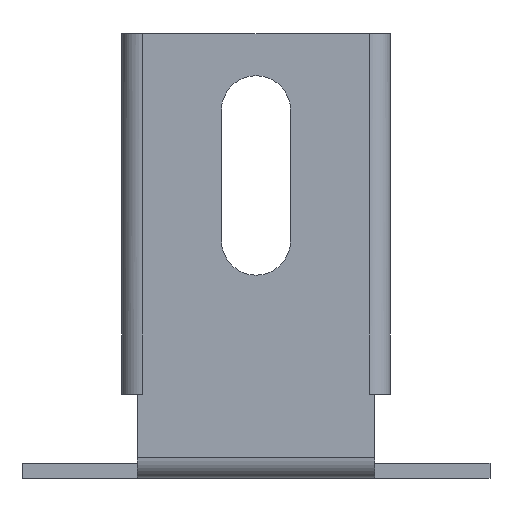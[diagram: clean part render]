
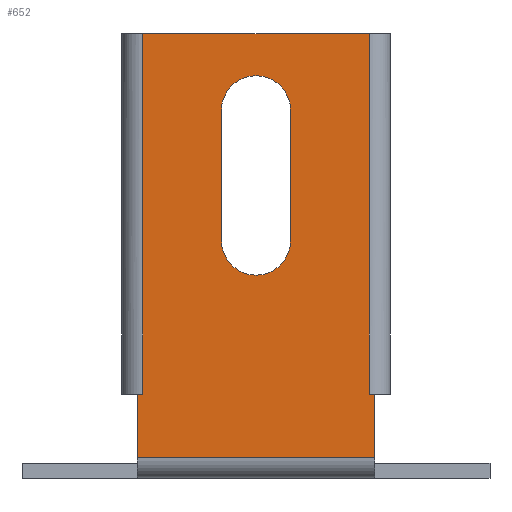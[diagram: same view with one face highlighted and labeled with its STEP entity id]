
A CAD part, front view. The second image highlights one B-rep face of the part: STEP entity #652.
In plain terms, the highlighted planar face has unit normal (0, -1, 0).
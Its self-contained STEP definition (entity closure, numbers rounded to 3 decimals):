
#32 = VECTOR ( 'NONE', #136, 1000. ) ;
#42 = DIRECTION ( 'NONE',  ( 0., 0., 1. ) ) ;
#48 = ORIENTED_EDGE ( 'NONE', *, *, #792, .T. ) ;
#50 = CARTESIAN_POINT ( 'NONE',  ( 0., -2., -47. ) ) ;
#52 = LINE ( 'NONE', #611, #1581 ) ;
#59 = CARTESIAN_POINT ( 'NONE',  ( 15.5, -2., -10. ) ) ;
#75 = CARTESIAN_POINT ( 'NONE',  ( 0., -2., -55.263 ) ) ;
#93 = CARTESIAN_POINT ( 'NONE',  ( 15.5, -2., -27. ) ) ;
#108 = DIRECTION ( 'NONE',  ( 1., 0., 0. ) ) ;
#136 = DIRECTION ( 'NONE',  ( -1., 0., 0. ) ) ;
#167 = CARTESIAN_POINT ( 'NONE',  ( 30.263, -2., -47. ) ) ;
#181 = VERTEX_POINT ( 'NONE', #739 ) ;
#183 = CARTESIAN_POINT ( 'NONE',  ( 0.737, -2., -47. ) ) ;
#204 = DIRECTION ( 'NONE',  ( 0., 0., -1. ) ) ;
#231 = LINE ( 'NONE', #552, #481 ) ;
#241 = CARTESIAN_POINT ( 'NONE',  ( 0., -2., 0. ) ) ;
#245 = CARTESIAN_POINT ( 'NONE',  ( 0.737, -2., 0. ) ) ;
#256 = VECTOR ( 'NONE', #375, 1000. ) ;
#260 = CARTESIAN_POINT ( 'NONE',  ( 20., -2., -10. ) ) ;
#264 = DIRECTION ( 'NONE',  ( 0., 0., -1. ) ) ;
#285 = CARTESIAN_POINT ( 'NONE',  ( 0.737, -2., 0. ) ) ;
#298 = LINE ( 'NONE', #241, #882 ) ;
#320 = ORIENTED_EDGE ( 'NONE', *, *, #1576, .F. ) ;
#332 = VECTOR ( 'NONE', #380, 1000. ) ;
#343 = ORIENTED_EDGE ( 'NONE', *, *, #491, .T. ) ;
#344 = CARTESIAN_POINT ( 'NONE',  ( 11., -2., -27. ) ) ;
#370 = ORIENTED_EDGE ( 'NONE', *, *, #505, .T. ) ;
#375 = DIRECTION ( 'NONE',  ( 0., 0., -1. ) ) ;
#380 = DIRECTION ( 'NONE',  ( 0., 0., 1. ) ) ;
#389 = LINE ( 'NONE', #860, #332 ) ;
#406 = FACE_OUTER_BOUND ( 'NONE', #1230, .T. ) ;
#415 = CIRCLE ( 'NONE', #945, 4.5 ) ;
#425 = FACE_BOUND ( 'NONE', #723, .T. ) ;
#454 = DIRECTION ( 'NONE',  ( 0., 0., -1. ) ) ;
#465 = DIRECTION ( 'NONE',  ( 0., -1., 0. ) ) ;
#481 = VECTOR ( 'NONE', #666, 1000. ) ;
#491 = EDGE_CURVE ( 'NONE', #1595, #1058, #574, .T. ) ;
#505 = EDGE_CURVE ( 'NONE', #1115, #181, #1203, .T. ) ;
#515 = VERTEX_POINT ( 'NONE', #1297 ) ;
#517 = CARTESIAN_POINT ( 'NONE',  ( 30.263, -2., 0. ) ) ;
#525 = DIRECTION ( 'NONE',  ( 1., 0., 0. ) ) ;
#526 = VERTEX_POINT ( 'NONE', #1456 ) ;
#542 = DIRECTION ( 'NONE',  ( 0., 1., 0. ) ) ;
#551 = LINE ( 'NONE', #1280, #987 ) ;
#552 = CARTESIAN_POINT ( 'NONE',  ( 31., -2., 0. ) ) ;
#560 = ORIENTED_EDGE ( 'NONE', *, *, #807, .T. ) ;
#574 = LINE ( 'NONE', #50, #1402 ) ;
#601 = AXIS2_PLACEMENT_3D ( 'NONE', #1104, #465, #204 ) ;
#611 = CARTESIAN_POINT ( 'NONE',  ( 30.263, -2., -47. ) ) ;
#624 = EDGE_CURVE ( 'NONE', #515, #646, #415, .T. ) ;
#646 = VERTEX_POINT ( 'NONE', #344 ) ;
#652 = ADVANCED_FACE ( 'NONE', ( #425, #406 ), #959, .T. ) ;
#660 = DIRECTION ( 'NONE',  ( 0., 0., -1. ) ) ;
#666 = DIRECTION ( 'NONE',  ( 0., 0., -1. ) ) ;
#681 = ORIENTED_EDGE ( 'NONE', *, *, #1556, .T. ) ;
#723 = EDGE_LOOP ( 'NONE', ( #370, #1296, #48, #1611, #560 ) ) ;
#739 = CARTESIAN_POINT ( 'NONE',  ( 15.5, -2., -5.5 ) ) ;
#783 = EDGE_CURVE ( 'NONE', #1015, #1546, #52, .T. ) ;
#786 = LINE ( 'NONE', #901, #946 ) ;
#792 = EDGE_CURVE ( 'NONE', #935, #515, #976, .T. ) ;
#807 = EDGE_CURVE ( 'NONE', #646, #1115, #389, .T. ) ;
#816 = EDGE_CURVE ( 'NONE', #1285, #1546, #298, .T. ) ;
#859 = EDGE_CURVE ( 'NONE', #1285, #1595, #1137, .T. ) ;
#860 = CARTESIAN_POINT ( 'NONE',  ( 11., -2., -10. ) ) ;
#882 = VECTOR ( 'NONE', #108, 1000. ) ;
#901 = CARTESIAN_POINT ( 'NONE',  ( 0., -2., 0. ) ) ;
#933 = DIRECTION ( 'NONE',  ( -1., 0., 0. ) ) ;
#935 = VERTEX_POINT ( 'NONE', #1264 ) ;
#945 = AXIS2_PLACEMENT_3D ( 'NONE', #93, #967, #454 ) ;
#946 = VECTOR ( 'NONE', #42, 1000. ) ;
#959 = PLANE ( 'NONE',  #601 ) ;
#967 = DIRECTION ( 'NONE',  ( 0., 1., 0. ) ) ;
#976 = LINE ( 'NONE', #260, #256 ) ;
#987 = VECTOR ( 'NONE', #525, 1000. ) ;
#992 = EDGE_CURVE ( 'NONE', #181, #935, #1187, .T. ) ;
#1005 = ORIENTED_EDGE ( 'NONE', *, *, #783, .T. ) ;
#1015 = VERTEX_POINT ( 'NONE', #167 ) ;
#1024 = ORIENTED_EDGE ( 'NONE', *, *, #816, .F. ) ;
#1027 = EDGE_CURVE ( 'NONE', #526, #1182, #231, .T. ) ;
#1058 = VERTEX_POINT ( 'NONE', #1178 ) ;
#1062 = CARTESIAN_POINT ( 'NONE',  ( 11., -2., -10. ) ) ;
#1085 = VERTEX_POINT ( 'NONE', #75 ) ;
#1104 = CARTESIAN_POINT ( 'NONE',  ( 0., -2., 0. ) ) ;
#1115 = VERTEX_POINT ( 'NONE', #1062 ) ;
#1137 = LINE ( 'NONE', #285, #1175 ) ;
#1175 = VECTOR ( 'NONE', #264, 1000. ) ;
#1176 = LINE ( 'NONE', #1506, #32 ) ;
#1178 = CARTESIAN_POINT ( 'NONE',  ( 0., -2., -47. ) ) ;
#1182 = VERTEX_POINT ( 'NONE', #1333 ) ;
#1187 = CIRCLE ( 'NONE', #1193, 4.5 ) ;
#1193 = AXIS2_PLACEMENT_3D ( 'NONE', #59, #1531, #660 ) ;
#1203 = CIRCLE ( 'NONE', #1550, 4.5 ) ;
#1230 = EDGE_LOOP ( 'NONE', ( #320, #681, #1321, #1588, #1005, #1024, #1231, #343 ) ) ;
#1231 = ORIENTED_EDGE ( 'NONE', *, *, #859, .T. ) ;
#1264 = CARTESIAN_POINT ( 'NONE',  ( 20., -2., -10. ) ) ;
#1280 = CARTESIAN_POINT ( 'NONE',  ( 0., -2., -55.263 ) ) ;
#1285 = VERTEX_POINT ( 'NONE', #245 ) ;
#1293 = CARTESIAN_POINT ( 'NONE',  ( 15.5, -2., -10. ) ) ;
#1296 = ORIENTED_EDGE ( 'NONE', *, *, #992, .T. ) ;
#1297 = CARTESIAN_POINT ( 'NONE',  ( 20., -2., -27. ) ) ;
#1301 = DIRECTION ( 'NONE',  ( 0., 0., -1. ) ) ;
#1321 = ORIENTED_EDGE ( 'NONE', *, *, #1027, .F. ) ;
#1333 = CARTESIAN_POINT ( 'NONE',  ( 31., -2., -55.263 ) ) ;
#1365 = EDGE_CURVE ( 'NONE', #526, #1015, #1176, .T. ) ;
#1402 = VECTOR ( 'NONE', #933, 1000. ) ;
#1456 = CARTESIAN_POINT ( 'NONE',  ( 31., -2., -47. ) ) ;
#1475 = DIRECTION ( 'NONE',  ( 0., 0., 1. ) ) ;
#1506 = CARTESIAN_POINT ( 'NONE',  ( 0., -2., -47. ) ) ;
#1531 = DIRECTION ( 'NONE',  ( 0., 1., 0. ) ) ;
#1546 = VERTEX_POINT ( 'NONE', #517 ) ;
#1550 = AXIS2_PLACEMENT_3D ( 'NONE', #1293, #542, #1301 ) ;
#1556 = EDGE_CURVE ( 'NONE', #1085, #1182, #551, .T. ) ;
#1576 = EDGE_CURVE ( 'NONE', #1085, #1058, #786, .T. ) ;
#1581 = VECTOR ( 'NONE', #1475, 1000. ) ;
#1588 = ORIENTED_EDGE ( 'NONE', *, *, #1365, .T. ) ;
#1595 = VERTEX_POINT ( 'NONE', #183 ) ;
#1611 = ORIENTED_EDGE ( 'NONE', *, *, #624, .T. ) ;
